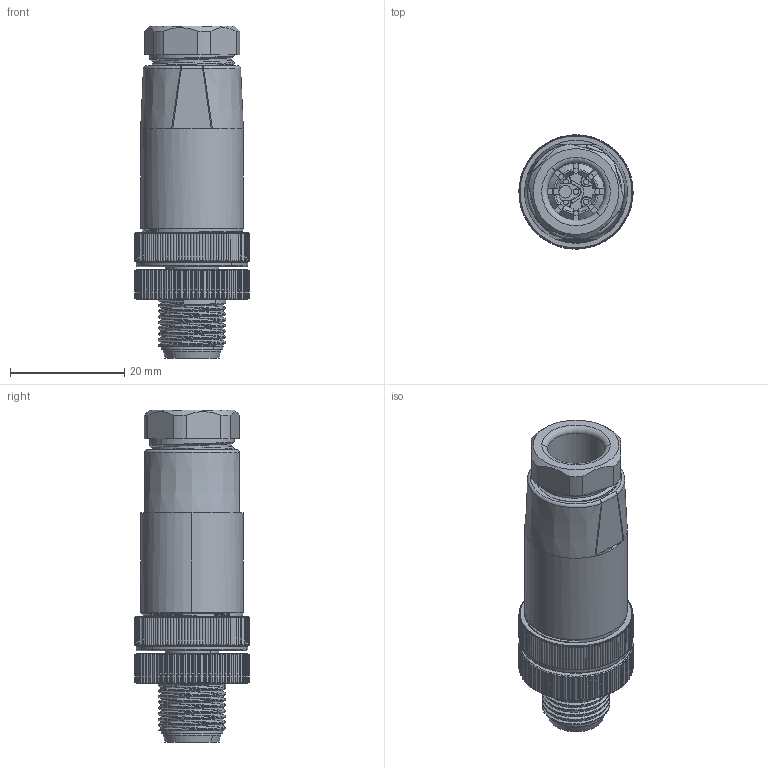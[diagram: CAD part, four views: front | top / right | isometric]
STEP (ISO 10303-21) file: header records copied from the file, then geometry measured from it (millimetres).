
FILE_DESCRIPTION((''),'2;1');
FILE_NAME('XC-M12-WK-PG9','2025-06-21T13:52:07',('lyj'),(''),'CREO PARAMETRIC BY PTC INC, 2019010','CREO PARAMETRIC BY PTC INC, 2019010','');
FILE_SCHEMA(('CONFIG_CONTROL_DESIGN'));
Products named in the file (1): XC-M12-WK-PG9
Bounding box: 20 x 20 x 58.18 mm (x, y, z)
Volume: 8163.2 mm3; surface area: 12409.1 mm2
Topology: 1 solids, 16 shells, 1591 faces, 4327 edges, 2779 vertices
Faces by surface type: cylinder 654, cone 425, plane 380, bspline 64, extrusion 28, torus 24, sphere 16
Entity records: 78051 total; most frequent: CARTESIAN_POINT 39774, ORIENTED_EDGE 8622, DIRECTION 7265, EDGE_CURVE 4311, AXIS2_PLACEMENT_3D 2914, VERTEX_POINT 2779, EDGE_LOOP 1678, FACE_OUTER_BOUND 1591
